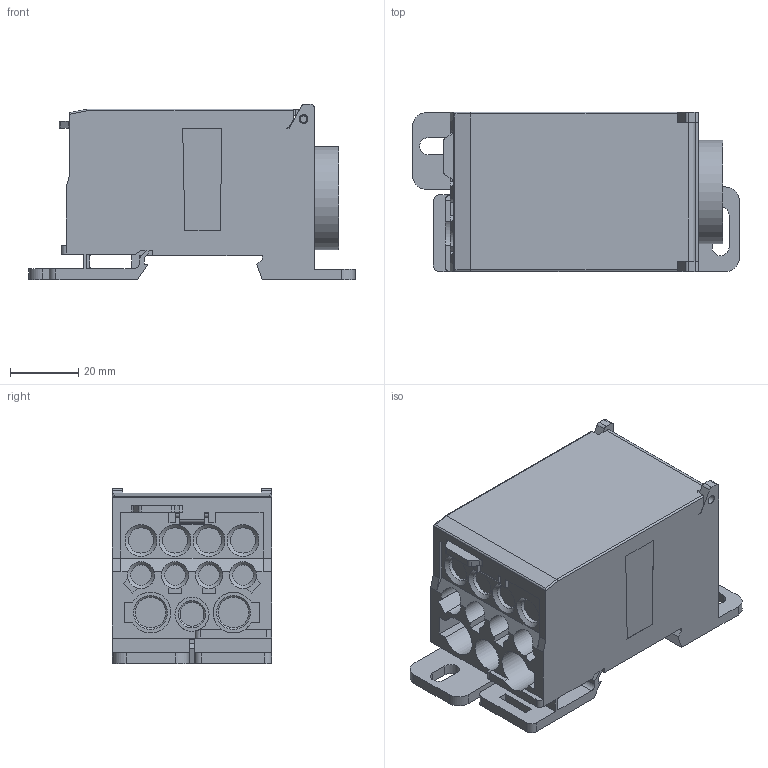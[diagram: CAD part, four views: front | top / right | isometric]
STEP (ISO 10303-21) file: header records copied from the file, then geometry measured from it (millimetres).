
FILE_DESCRIPTION(('Open CASCADE Model'),'2;1');
FILE_NAME('Open CASCADE Shape Model','2023-10-10T09:24:03',('Author'),( 'Open CASCADE'),'Open CASCADE STEP processor 6.5','Open CASCADE 6.5' ,'Unknown');
FILE_SCHEMA(('AUTOMOTIVE_DESIGN { 1 0 10303 214 1 1 1 1 }'));
Length unit declared in the file: millimetre
Products named in the file (276): CADSOFTTOOLS 2; CADSOFTTOOLS 2.1; CADSOFTTOOLS 2.2; CADSOFTTOOLS 2.3; CADSOFTTOOLS 2.4; CADSOFTTOOLS 2.5; CADSOFTTOOLS 2.6; CADSOFTTOOLS 2.7; CADSOFTTOOLS 2.8; CADSOFTTOOLS 2.9; CADSOFTTOOLS 2.10; CADSOFTTOOLS 2.11; CADSOFTTOOLS 2.12; CADSOFTTOOLS 2.13; CADSOFTTOOLS 2.14; CADSOFTTOOLS 2.15; CADSOFTTOOLS 2.16; CADSOFTTOOLS 2.17; CADSOFTTOOLS 2.18; CADSOFTTOOLS 2.19; CADSOFTTOOLS 2.20; CADSOFTTOOLS 2.21; CADSOFTTOOLS 2.22; CADSOFTTOOLS 2.23; CADSOFTTOOLS 2.24; CADSOFTTOOLS 2.25; CADSOFTTOOLS 2.26; CADSOFTTOOLS 2.27; CADSOFTTOOLS 2.28; CADSOFTTOOLS 2.29; CADSOFTTOOLS 2.30; CADSOFTTOOLS 2.31; CADSOFTTOOLS 2.32; CADSOFTTOOLS 2.33; CADSOFTTOOLS 2.34; CADSOFTTOOLS 2.35; CADSOFTTOOLS 2.36; CADSOFTTOOLS 2.37; CADSOFTTOOLS 2.38; CADSOFTTOOLS 2.39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
Assembly tree (275 placements, depth 2):
  CADSOFTTOOLS 2
    CADSOFTTOOLS 2.1
    CADSOFTTOOLS 2.2
    CADSOFTTOOLS 2.3
    CADSOFTTOOLS 2.4
    CADSOFTTOOLS 2.5
    CADSOFTTOOLS 2.6
    CADSOFTTOOLS 2.7
    CADSOFTTOOLS 2.8
    CADSOFTTOOLS 2.9
    CADSOFTTOOLS 2.10
    CADSOFTTOOLS 2.11
    CADSOFTTOOLS 2.12
    CADSOFTTOOLS 2.13
    CADSOFTTOOLS 2.14
    CADSOFTTOOLS 2.15
    CADSOFTTOOLS 2.16
    CADSOFTTOOLS 2.17
    CADSOFTTOOLS 2.18
    CADSOFTTOOLS 2.19
    CADSOFTTOOLS 2.20
    CADSOFTTOOLS 2.21
    CADSOFTTOOLS 2.22
    CADSOFTTOOLS 2.23
    CADSOFTTOOLS 2.24
    CADSOFTTOOLS 2.25
    CADSOFTTOOLS 2.26
    CADSOFTTOOLS 2.27
    CADSOFTTOOLS 2.28
    CADSOFTTOOLS 2.29
    CADSOFTTOOLS 2.30
    CADSOFTTOOLS 2.31
    CADSOFTTOOLS 2.32
    CADSOFTTOOLS 2.33
    CADSOFTTOOLS 2.34
    CADSOFTTOOLS 2.35
    CADSOFTTOOLS 2.36
    CADSOFTTOOLS 2.37
    CADSOFTTOOLS 2.38
    CADSOFTTOOLS 2.39
    CADSOFTTOOLS 2.40
    CADSOFTTOOLS 2.41
    CADSOFTTOOLS 2.42
    CADSOFTTOOLS 2.43
    CADSOFTTOOLS 2.44
    CADSOFTTOOLS 2.45
    CADSOFTTOOLS 2.46
    CADSOFTTOOLS 2.47
    CADSOFTTOOLS 2.48
    CADSOFTTOOLS 2.49
    CADSOFTTOOLS 2.50
    CADSOFTTOOLS 2.51
    CADSOFTTOOLS 2.52
    CADSOFTTOOLS 2.53
    CADSOFTTOOLS 2.54
    CADSOFTTOOLS 2.55
    CADSOFTTOOLS 2.56
    CADSOFTTOOLS 2.57
    CADSOFTTOOLS 2.58
    CADSOFTTOOLS 2.59
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Bounding box: 96 x 46.8 x 51.5 mm (x, y, z)
Surface area: 36889.7 mm2 (no closed solid volume)
Topology: 0 solids, 275 shells, 275 faces, 1475 edges, 1444 vertices
Faces by surface type: plane 180, cylinder 78, cone 15, torus 2
Full cylindrical faces by diameter (mm): 2.5 x2, 2.6 x2, 6 x4, 7 x1, 7.4 x4, 9 x2, 10 x1, 27.2 x1, 30.4 x1
Entity records: 33263 total; most frequent: CARTESIAN_POINT 8803, DIRECTION 4012, LINE 2015, VECTOR 2015, ORIENTED_EDGE 1506, PCURVE 1506, DEFINITIONAL_REPRESENTATION 1506, EDGE_CURVE 1475
